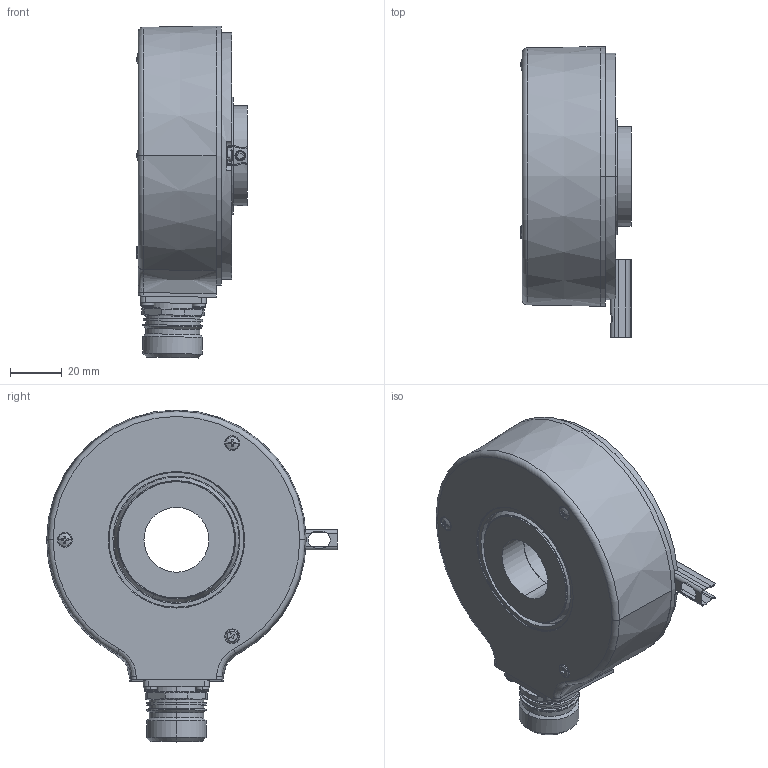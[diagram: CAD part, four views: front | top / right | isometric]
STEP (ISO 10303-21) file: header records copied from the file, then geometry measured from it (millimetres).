
FILE_DESCRIPTION (( 'STEP AP214' ), '1' );
FILE_NAME ('A020.35X2.XXXX.STEP', '2008-11-06T07:36:52', ( 'admin' ), ( 'Fritz Kübler GmbH' ), 'SwSTEP 2.0', 'SolidWorks 2008', '' );
FILE_SCHEMA (( 'AUTOMOTIVE_DESIGN' ));
Length unit declared in the file: millimetre
Products named in the file (1): A020.35X2.XXXX
Bounding box: 42.6 x 112 x 127.91 mm (x, y, z)
Volume: 168471.6 mm3; surface area: 87392.7 mm2
Topology: 31 solids, 33 shells, 1098 faces, 2650 edges, 1614 vertices
Faces by surface type: cylinder 440, plane 299, cone 192, sphere 84, torus 79, bspline 4
Entity records: 45879 total; most frequent: CARTESIAN_POINT 7919, DIRECTION 5837, ORIENTED_EDGE 4928, EDGE_CURVE 2464, AXIS2_PLACEMENT_3D 2438, VERTEX_POINT 1542, CIRCLE 1343, EDGE_LOOP 1324
